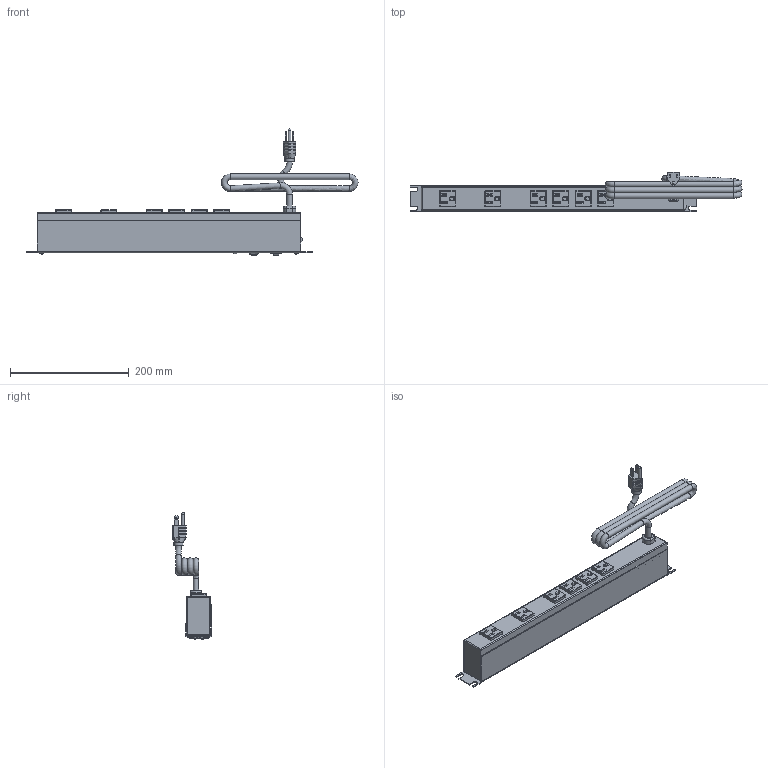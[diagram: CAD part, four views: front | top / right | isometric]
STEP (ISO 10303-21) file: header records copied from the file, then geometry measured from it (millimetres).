
FILE_DESCRIPTION(/* description */ (''),/* implementation_level */ '2;1');
FILE_NAME(/* name */ 'E:\Manufacturing\drawings\Web Drawings\POWER BARS\Surge Protection\1583''S'' series\STEP''s\1583H6A1BK.stp',/* time_stamp */ '2019-01-14T10:11:31-05:00',/* author */ ('tfoster'),/* organization */ (''),/* preprocessor_version */ 'ST-DEVELOPER v17',/* originating_system */ 'Autodesk Inventor 2019',/* authorisation */ '');
FILE_SCHEMA (('AUTOMOTIVE_DESIGN { 1 0 10303 214 3 1 1 }'));
Products named in the file (12): 1583H6A1BK; 1582 Front plate; 1583H6 Back Plate; #25054; Reset Switch; Power Switch Assembly; Power Switch; Power Switch pt; Cored 2; Receptacle; Surge Light; tamper proof screw
Assembly tree (19 placements, depth 3):
  1583H6A1BK
    1582 Front plate
    1583H6 Back Plate
    #25054  x4
    Reset Switch
    Power Switch Assembly
      Power Switch
      Power Switch pt
    Cored 2
    Receptacle  x6
    Surge Light
    tamper proof screw
Bounding box: 560.01 x 66.07 x 213.79 mm (x, y, z)
Volume: 350359.8 mm3; surface area: 300872.4 mm2
Topology: 18 solids, 18 shells, 1001 faces, 2704 edges, 1746 vertices
Faces by surface type: plane 585, cylinder 273, bspline 73, sphere 31, cone 25, torus 14
Full cylindrical faces by diameter (mm): 1 x1, 1.803 x3, 1.905 x2, 2.13 x20, 2.286 x1, 2.997 x4, 3 x2, 3.505 x12, 4.775 x1, 4.801 x1, 5.563 x4, 6.858 x1, 7.747 x1, 7.95 x1, 9.5 x5, 9.652 x1, 11 x1, 15.621 x1
Entity records: 24873 total; most frequent: CARTESIAN_POINT 9325, ORIENTED_EDGE 3302, DIRECTION 2875, EDGE_CURVE 1651, LINE 1079, VECTOR 1079, VERTEX_POINT 1078, AXIS2_PLACEMENT_3D 898
